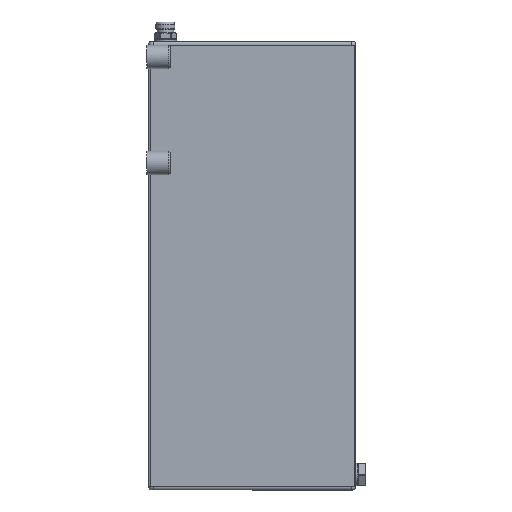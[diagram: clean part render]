
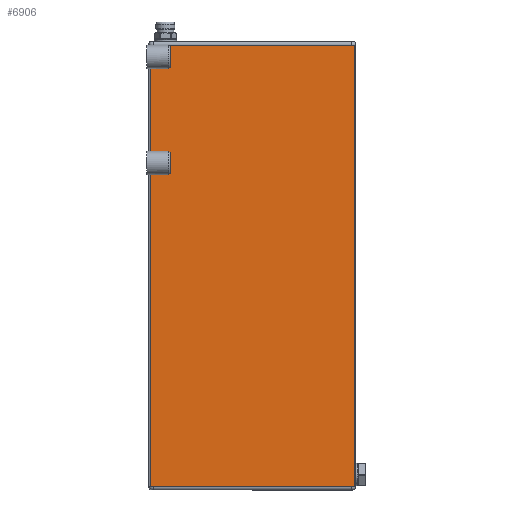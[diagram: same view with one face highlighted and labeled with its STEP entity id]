
A CAD part, front view. The second image highlights one B-rep face of the part: STEP entity #6906.
In plain terms, the highlighted planar face has unit normal (0, -1, 0).
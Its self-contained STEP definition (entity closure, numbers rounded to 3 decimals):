
#94 = LINE ( 'NONE', #3135, #463 ) ;
#122 = VERTEX_POINT ( 'NONE', #5670 ) ;
#128 = CARTESIAN_POINT ( 'NONE',  ( -86.5, -87.5, 0. ) ) ;
#153 = EDGE_CURVE ( 'NONE', #5580, #2408, #7489, .T. ) ;
#223 = CARTESIAN_POINT ( 'NONE',  ( -70.5, -87.5, 357. ) ) ;
#463 = VECTOR ( 'NONE', #3202, 1000. ) ;
#485 = CARTESIAN_POINT ( 'NONE',  ( 86.5, -87.5, 374. ) ) ;
#628 = EDGE_CURVE ( 'NONE', #692, #1711, #3318, .T. ) ;
#633 = DIRECTION ( 'NONE',  ( -1., 0., 0. ) ) ;
#692 = VERTEX_POINT ( 'NONE', #2683 ) ;
#825 = ORIENTED_EDGE ( 'NONE', *, *, #7159, .F. ) ;
#944 = VECTOR ( 'NONE', #1548, 1000. ) ;
#964 = EDGE_CURVE ( 'NONE', #4619, #4163, #4793, .T. ) ;
#1029 = ORIENTED_EDGE ( 'NONE', *, *, #153, .T. ) ;
#1133 = VERTEX_POINT ( 'NONE', #8536 ) ;
#1203 = ORIENTED_EDGE ( 'NONE', *, *, #7391, .T. ) ;
#1209 = LINE ( 'NONE', #128, #5140 ) ;
#1277 = LINE ( 'NONE', #6127, #2826 ) ;
#1432 = CARTESIAN_POINT ( 'NONE',  ( -84., -87.5, 374. ) ) ;
#1447 = EDGE_CURVE ( 'NONE', #1711, #4619, #1277, .T. ) ;
#1548 = DIRECTION ( 'NONE',  ( 1., 0., 0. ) ) ;
#1559 = VECTOR ( 'NONE', #7855, 1000. ) ;
#1587 = LINE ( 'NONE', #4794, #4992 ) ;
#1621 = EDGE_LOOP ( 'NONE', ( #2483, #4233, #4454, #3641, #3074, #5474, #4310, #2959, #1203, #1029, #4124, #8559, #1939, #2461, #825, #5470, #3044, #8208 ) ) ;
#1644 = CARTESIAN_POINT ( 'NONE',  ( -86.5, -87.5, 374. ) ) ;
#1660 = PLANE ( 'NONE',  #3547 ) ;
#1711 = VERTEX_POINT ( 'NONE', #1842 ) ;
#1842 = CARTESIAN_POINT ( 'NONE',  ( -70.5, -87.5, 371. ) ) ;
#1872 = CARTESIAN_POINT ( 'NONE',  ( 86.5, -87.5, 0. ) ) ;
#1876 = FACE_OUTER_BOUND ( 'NONE', #1621, .T. ) ;
#1889 = CARTESIAN_POINT ( 'NONE',  ( 86.5, -87.5, 0. ) ) ;
#1914 = VECTOR ( 'NONE', #6677, 1000. ) ;
#1939 = ORIENTED_EDGE ( 'NONE', *, *, #4832, .T. ) ;
#2072 = DIRECTION ( 'NONE',  ( -1., 0., 0. ) ) ;
#2131 = LINE ( 'NONE', #3214, #7211 ) ;
#2229 = CARTESIAN_POINT ( 'NONE',  ( -70.5, -87.5, 0. ) ) ;
#2300 = DIRECTION ( 'NONE',  ( 0., -1., 0. ) ) ;
#2408 = VERTEX_POINT ( 'NONE', #8010 ) ;
#2437 = VECTOR ( 'NONE', #5990, 1000. ) ;
#2461 = ORIENTED_EDGE ( 'NONE', *, *, #5421, .T. ) ;
#2474 = VECTOR ( 'NONE', #8001, 1000. ) ;
#2479 = CARTESIAN_POINT ( 'NONE',  ( -86.5, -87.5, 267. ) ) ;
#2483 = ORIENTED_EDGE ( 'NONE', *, *, #1447, .T. ) ;
#2534 = CARTESIAN_POINT ( 'NONE',  ( -86.5, -87.5, 0. ) ) ;
#2559 = DIRECTION ( 'NONE',  ( 0., 0., 1. ) ) ;
#2658 = LINE ( 'NONE', #8538, #2437 ) ;
#2683 = CARTESIAN_POINT ( 'NONE',  ( -86.5, -87.5, 371. ) ) ;
#2754 = LINE ( 'NONE', #4022, #7626 ) ;
#2826 = VECTOR ( 'NONE', #5442, 1000. ) ;
#2923 = EDGE_CURVE ( 'NONE', #4163, #4785, #2658, .T. ) ;
#2959 = ORIENTED_EDGE ( 'NONE', *, *, #4923, .T. ) ;
#3036 = VECTOR ( 'NONE', #7607, 1000. ) ;
#3044 = ORIENTED_EDGE ( 'NONE', *, *, #4435, .T. ) ;
#3074 = ORIENTED_EDGE ( 'NONE', *, *, #4152, .T. ) ;
#3135 = CARTESIAN_POINT ( 'NONE',  ( -70.5, -87.5, 0. ) ) ;
#3202 = DIRECTION ( 'NONE',  ( 0., 0., -1. ) ) ;
#3214 = CARTESIAN_POINT ( 'NONE',  ( 86.5, -87.5, 0. ) ) ;
#3318 = LINE ( 'NONE', #5346, #5717 ) ;
#3405 = VECTOR ( 'NONE', #7443, 1000. ) ;
#3432 = EDGE_CURVE ( 'NONE', #7771, #8476, #5302, .T. ) ;
#3444 = CARTESIAN_POINT ( 'NONE',  ( 84., -87.5, 0. ) ) ;
#3547 = AXIS2_PLACEMENT_3D ( 'NONE', #4977, #2300, #8308 ) ;
#3641 = ORIENTED_EDGE ( 'NONE', *, *, #4324, .T. ) ;
#3898 = LINE ( 'NONE', #4752, #6298 ) ;
#3937 = EDGE_CURVE ( 'NONE', #2408, #6015, #5166, .T. ) ;
#4022 = CARTESIAN_POINT ( 'NONE',  ( 86.5, -87.5, 267. ) ) ;
#4027 = VECTOR ( 'NONE', #5062, 1000. ) ;
#4124 = ORIENTED_EDGE ( 'NONE', *, *, #3937, .T. ) ;
#4152 = EDGE_CURVE ( 'NONE', #8311, #4721, #7474, .T. ) ;
#4163 = VERTEX_POINT ( 'NONE', #223 ) ;
#4233 = ORIENTED_EDGE ( 'NONE', *, *, #964, .T. ) ;
#4310 = ORIENTED_EDGE ( 'NONE', *, *, #5139, .T. ) ;
#4324 = EDGE_CURVE ( 'NONE', #4785, #8311, #3898, .T. ) ;
#4351 = CARTESIAN_POINT ( 'NONE',  ( -70.5, -87.5, 281. ) ) ;
#4435 = EDGE_CURVE ( 'NONE', #8476, #692, #1209, .T. ) ;
#4454 = ORIENTED_EDGE ( 'NONE', *, *, #2923, .T. ) ;
#4547 = CARTESIAN_POINT ( 'NONE',  ( 86.5, -87.5, 374. ) ) ;
#4619 = VERTEX_POINT ( 'NONE', #8459 ) ;
#4641 = LINE ( 'NONE', #4801, #944 ) ;
#4679 = VERTEX_POINT ( 'NONE', #485 ) ;
#4690 = DIRECTION ( 'NONE',  ( 0., 0., -1. ) ) ;
#4698 = VERTEX_POINT ( 'NONE', #2479 ) ;
#4707 = DIRECTION ( 'NONE',  ( 1., 0., 0. ) ) ;
#4721 = VERTEX_POINT ( 'NONE', #4351 ) ;
#4752 = CARTESIAN_POINT ( 'NONE',  ( -86.5, -87.5, 0. ) ) ;
#4785 = VERTEX_POINT ( 'NONE', #5248 ) ;
#4793 = LINE ( 'NONE', #2229, #3036 ) ;
#4794 = CARTESIAN_POINT ( 'NONE',  ( 86.5, -87.5, 0. ) ) ;
#4801 = CARTESIAN_POINT ( 'NONE',  ( 84., -87.5, 374. ) ) ;
#4832 = EDGE_CURVE ( 'NONE', #8118, #4679, #2131, .T. ) ;
#4923 = EDGE_CURVE ( 'NONE', #1133, #4698, #2754, .T. ) ;
#4950 = EDGE_CURVE ( 'NONE', #4721, #122, #8370, .T. ) ;
#4977 = CARTESIAN_POINT ( 'NONE',  ( 86.5, -87.5, 0. ) ) ;
#4992 = VECTOR ( 'NONE', #5541, 1000. ) ;
#5062 = DIRECTION ( 'NONE',  ( 0., 0., -1. ) ) ;
#5139 = EDGE_CURVE ( 'NONE', #122, #1133, #94, .T. ) ;
#5140 = VECTOR ( 'NONE', #5377, 1000. ) ;
#5166 = LINE ( 'NONE', #1889, #3405 ) ;
#5248 = CARTESIAN_POINT ( 'NONE',  ( -86.5, -87.5, 357. ) ) ;
#5302 = LINE ( 'NONE', #4547, #1559 ) ;
#5304 = CARTESIAN_POINT ( 'NONE',  ( 86.5, -87.5, 0. ) ) ;
#5346 = CARTESIAN_POINT ( 'NONE',  ( 86.5, -87.5, 371. ) ) ;
#5377 = DIRECTION ( 'NONE',  ( 0., 0., -1. ) ) ;
#5421 = EDGE_CURVE ( 'NONE', #4679, #7891, #8347, .T. ) ;
#5442 = DIRECTION ( 'NONE',  ( 0., 0., -1. ) ) ;
#5451 = CARTESIAN_POINT ( 'NONE',  ( 86.5, -87.5, 281. ) ) ;
#5470 = ORIENTED_EDGE ( 'NONE', *, *, #3432, .T. ) ;
#5474 = ORIENTED_EDGE ( 'NONE', *, *, #4950, .T. ) ;
#5541 = DIRECTION ( 'NONE',  ( 1., 0., 0. ) ) ;
#5580 = VERTEX_POINT ( 'NONE', #6702 ) ;
#5670 = CARTESIAN_POINT ( 'NONE',  ( -70.5, -87.5, 274. ) ) ;
#5703 = LINE ( 'NONE', #2534, #4027 ) ;
#5717 = VECTOR ( 'NONE', #4707, 1000. ) ;
#5933 = CARTESIAN_POINT ( 'NONE',  ( 86.5, -87.5, 374. ) ) ;
#5990 = DIRECTION ( 'NONE',  ( -1., 0., 0. ) ) ;
#6015 = VERTEX_POINT ( 'NONE', #3444 ) ;
#6127 = CARTESIAN_POINT ( 'NONE',  ( -70.5, -87.5, 0. ) ) ;
#6129 = EDGE_CURVE ( 'NONE', #6015, #8118, #1587, .T. ) ;
#6298 = VECTOR ( 'NONE', #4690, 1000. ) ;
#6509 = DIRECTION ( 'NONE',  ( 1., 0., 0. ) ) ;
#6677 = DIRECTION ( 'NONE',  ( 0., 0., -1. ) ) ;
#6702 = CARTESIAN_POINT ( 'NONE',  ( -86.5, -87.5, 0. ) ) ;
#6906 = ADVANCED_FACE ( 'NONE', ( #1876 ), #1660, .T. ) ;
#6975 = CARTESIAN_POINT ( 'NONE',  ( 84., -87.5, 374. ) ) ;
#7159 = EDGE_CURVE ( 'NONE', #7771, #7891, #4641, .T. ) ;
#7211 = VECTOR ( 'NONE', #2559, 1000. ) ;
#7313 = CARTESIAN_POINT ( 'NONE',  ( -70.5, -87.5, 0. ) ) ;
#7391 = EDGE_CURVE ( 'NONE', #4698, #5580, #5703, .T. ) ;
#7443 = DIRECTION ( 'NONE',  ( 1., 0., 0. ) ) ;
#7474 = LINE ( 'NONE', #5451, #2474 ) ;
#7489 = LINE ( 'NONE', #1872, #7590 ) ;
#7590 = VECTOR ( 'NONE', #6509, 1000. ) ;
#7607 = DIRECTION ( 'NONE',  ( 0., 0., -1. ) ) ;
#7626 = VECTOR ( 'NONE', #2072, 1000. ) ;
#7771 = VERTEX_POINT ( 'NONE', #1432 ) ;
#7855 = DIRECTION ( 'NONE',  ( -1., 0., 0. ) ) ;
#7891 = VERTEX_POINT ( 'NONE', #6975 ) ;
#8001 = DIRECTION ( 'NONE',  ( 1., 0., 0. ) ) ;
#8010 = CARTESIAN_POINT ( 'NONE',  ( -84., -87.5, 0. ) ) ;
#8118 = VERTEX_POINT ( 'NONE', #5304 ) ;
#8208 = ORIENTED_EDGE ( 'NONE', *, *, #628, .T. ) ;
#8256 = CARTESIAN_POINT ( 'NONE',  ( -86.5, -87.5, 281. ) ) ;
#8308 = DIRECTION ( 'NONE',  ( 0., 0., -1. ) ) ;
#8311 = VERTEX_POINT ( 'NONE', #8256 ) ;
#8347 = LINE ( 'NONE', #5933, #8448 ) ;
#8370 = LINE ( 'NONE', #7313, #1914 ) ;
#8448 = VECTOR ( 'NONE', #633, 1000. ) ;
#8459 = CARTESIAN_POINT ( 'NONE',  ( -70.5, -87.5, 364. ) ) ;
#8476 = VERTEX_POINT ( 'NONE', #1644 ) ;
#8536 = CARTESIAN_POINT ( 'NONE',  ( -70.5, -87.5, 267. ) ) ;
#8538 = CARTESIAN_POINT ( 'NONE',  ( 86.5, -87.5, 357. ) ) ;
#8559 = ORIENTED_EDGE ( 'NONE', *, *, #6129, .T. ) ;
